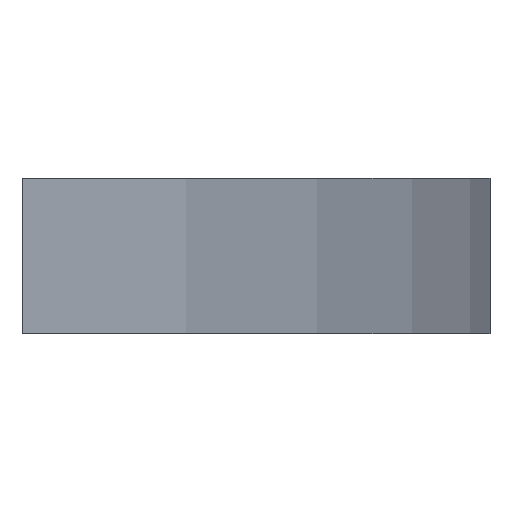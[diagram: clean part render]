
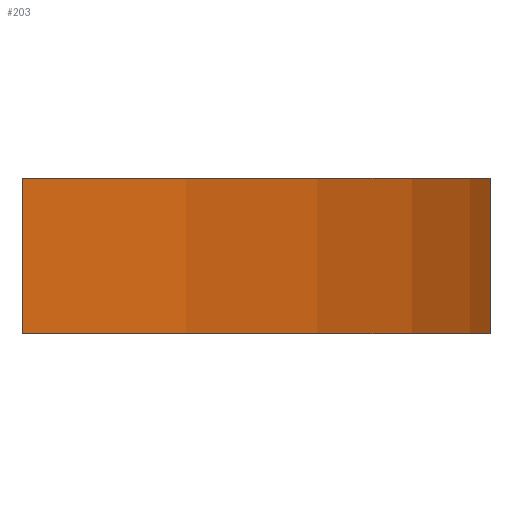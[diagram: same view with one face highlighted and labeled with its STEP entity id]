
A CAD part, left-side view. The second image highlights one B-rep face of the part: STEP entity #203.
In plain terms, the highlighted cylindrical face has radius 117.704 mm (diameter 235.408 mm), a partial arc.
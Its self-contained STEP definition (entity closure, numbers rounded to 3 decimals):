
#165 = VERTEX_POINT( '', #338 );
#167 = VERTEX_POINT( '', #340 );
#177 = EDGE_CURVE( '', #165, #167, #352, .T. );
#181 = EDGE_CURVE( '', #239, #207, #357, .T. );
#201 = EDGE_CURVE( '', #165, #239, #380, .T. );
#203 = ADVANCED_FACE( '', ( #382 ), #383, .T. );
#207 = VERTEX_POINT( '', #387 );
#221 = EDGE_CURVE( '', #167, #207, #404, .T. );
#239 = VERTEX_POINT( '', #427 );
#338 = CARTESIAN_POINT( '', ( -14.5, 0., 5. ) );
#340 = CARTESIAN_POINT( '', ( -14.5, 0., -5. ) );
#352 = LINE( '', #557, #558 );
#357 = LINE( '', #564, #565 );
#380 = CIRCLE( '', #598, 117.704 );
#382 = FACE_OUTER_BOUND( '', #600, .T. );
#383 = CYLINDRICAL_SURFACE( '', #601, 117.704 );
#387 = CARTESIAN_POINT( '', ( 142.5, 0., -5. ) );
#404 = CIRCLE( '', #627, 117.704 );
#427 = CARTESIAN_POINT( '', ( 142.5, 0., 5. ) );
#557 = CARTESIAN_POINT( '', ( -14.5, 0., 5. ) );
#558 = VECTOR( '', #752, 1. );
#564 = CARTESIAN_POINT( '', ( 142.5, 0., 5. ) );
#565 = VECTOR( '', #761, 1. );
#598 = AXIS2_PLACEMENT_3D( '', #802, #803, #804 );
#600 = EDGE_LOOP( '', ( #806, #807, #808, #809 ) );
#601 = AXIS2_PLACEMENT_3D( '', #810, #811, #812 );
#627 = AXIS2_PLACEMENT_3D( '', #836, #837, #838 );
#752 = DIRECTION( '', ( 0., 0., -1. ) );
#761 = DIRECTION( '', ( 0., 0., -1. ) );
#802 = CARTESIAN_POINT( '', ( 64., 87.704, 5. ) );
#803 = DIRECTION( '', ( 0., 0., 1. ) );
#804 = DIRECTION( '', ( -0.667, -0.745, 0. ) );
#806 = ORIENTED_EDGE( '', *, *, #221, .T. );
#807 = ORIENTED_EDGE( '', *, *, #181, .F. );
#808 = ORIENTED_EDGE( '', *, *, #201, .F. );
#809 = ORIENTED_EDGE( '', *, *, #177, .T. );
#810 = CARTESIAN_POINT( '', ( 64., 87.704, 5. ) );
#811 = DIRECTION( '', ( 0., 0., 1. ) );
#812 = DIRECTION( '', ( -0.667, -0.745, 0. ) );
#836 = CARTESIAN_POINT( '', ( 64., 87.704, -5. ) );
#837 = DIRECTION( '', ( 0., 0., 1. ) );
#838 = DIRECTION( '', ( -0.667, -0.745, 0. ) );
